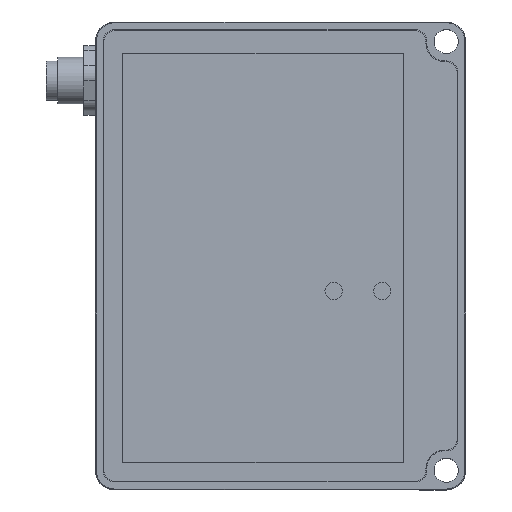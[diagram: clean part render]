
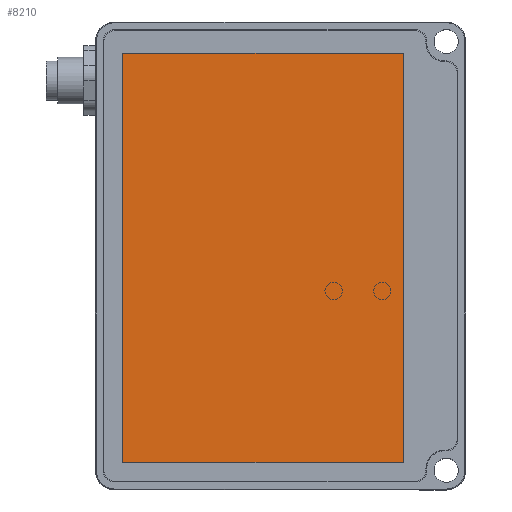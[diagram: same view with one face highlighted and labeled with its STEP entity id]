
A CAD part, top view. The second image highlights one B-rep face of the part: STEP entity #8210.
In plain terms, the highlighted planar face has unit normal (0, 0, 1).
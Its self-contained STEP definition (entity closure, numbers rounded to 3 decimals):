
#8080=CARTESIAN_POINT('',(85.67,10.426,0.05));
#8081=VERTEX_POINT('',#8080);
#8082=CARTESIAN_POINT('',(85.67,-61.574,0.05));
#8083=VERTEX_POINT('',#8082);
#8084=CARTESIAN_POINT('',(85.67,10.426,0.05));
#8085=DIRECTION('',(0.0,-1.0,0.0));
#8086=VECTOR('',#8085,72.);
#8087=LINE('',#8084,#8086);
#8088=EDGE_CURVE('',#8081,#8083,#8087,.T.);
#8120=CARTESIAN_POINT('',(-19.33,-61.574,0.05));
#8121=VERTEX_POINT('',#8120);
#8122=CARTESIAN_POINT('',(85.67,-61.574,0.05));
#8123=DIRECTION('',(-1.0,0.0,0.0));
#8124=VECTOR('',#8123,105.);
#8125=LINE('',#8122,#8124);
#8126=EDGE_CURVE('',#8083,#8121,#8125,.T.);
#8151=CARTESIAN_POINT('',(-19.33,10.426,0.05));
#8152=VERTEX_POINT('',#8151);
#8153=CARTESIAN_POINT('',(-19.33,-61.574,0.05));
#8154=DIRECTION('',(0.0,1.0,0.0));
#8155=VECTOR('',#8154,72.0);
#8156=LINE('',#8153,#8155);
#8157=EDGE_CURVE('',#8121,#8152,#8156,.T.);
#8182=CARTESIAN_POINT('',(-19.33,10.426,0.05));
#8183=DIRECTION('',(1.0,0.0,0.0));
#8184=VECTOR('',#8183,105.);
#8185=LINE('',#8182,#8184);
#8186=EDGE_CURVE('',#8152,#8081,#8185,.T.);
#8199=CARTESIAN_POINT('',(33.17,-25.574,0.05));
#8200=DIRECTION('',(0.0,0.0,1.0));
#8201=DIRECTION('',(1.0,0.0,0.0));
#8202=AXIS2_PLACEMENT_3D('',#8199,#8200,#8201);
#8203=PLANE('',#8202);
#8204=ORIENTED_EDGE('',*,*,#8088,.F.);
#8205=ORIENTED_EDGE('',*,*,#8186,.F.);
#8206=ORIENTED_EDGE('',*,*,#8157,.F.);
#8207=ORIENTED_EDGE('',*,*,#8126,.F.);
#8208=EDGE_LOOP('',(#8204,#8205,#8206,#8207));
#8209=FACE_OUTER_BOUND('',#8208,.T.);
#8210=ADVANCED_FACE('',(#8209),#8203,.T.);
